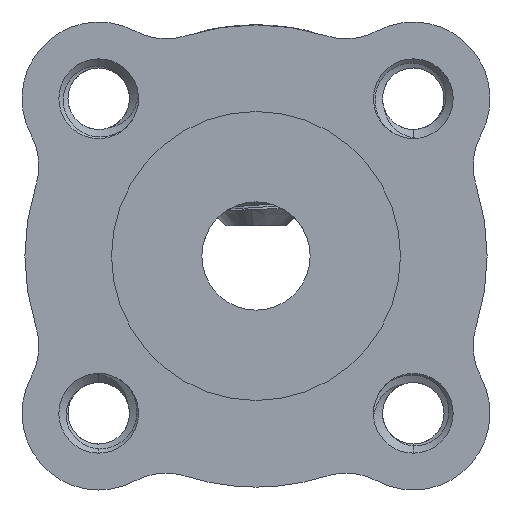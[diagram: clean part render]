
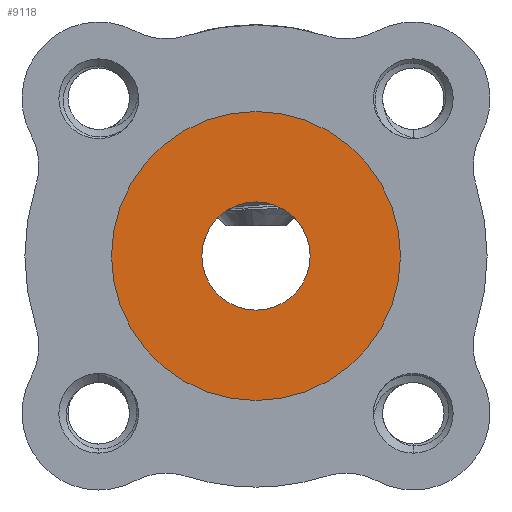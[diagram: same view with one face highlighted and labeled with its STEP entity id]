
A CAD part, front view. The second image highlights one B-rep face of the part: STEP entity #9118.
In plain terms, the highlighted planar face has unit normal (0, -1, 0).
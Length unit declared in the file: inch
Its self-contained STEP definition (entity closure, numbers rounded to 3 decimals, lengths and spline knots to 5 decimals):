
#645 = CIRCLE ( 'NONE', #1527, 0.25 ) ;
#1005 = ORIENTED_EDGE ( 'NONE', *, *, #9234, .F. ) ;
#1527 = AXIS2_PLACEMENT_3D ( 'NONE', #9904, #13593, #19202 ) ;
#1808 = AXIS2_PLACEMENT_3D ( 'NONE', #3510, #9217, #16728 ) ;
#1817 = DIRECTION ( 'NONE',  ( 0., 1., 0. ) ) ;
#2585 = CARTESIAN_POINT ( 'NONE',  ( 0., 0., 0.09375 ) ) ;
#3242 = VERTEX_POINT ( 'NONE', #20995 ) ;
#3460 = DIRECTION ( 'NONE',  ( 0., 0., 1. ) ) ;
#3510 = CARTESIAN_POINT ( 'NONE',  ( 0., 0., 0. ) ) ;
#3542 = CARTESIAN_POINT ( 'NONE',  ( 0., 0., 0. ) ) ;
#3864 = FACE_BOUND ( 'NONE', #5868, .T. ) ;
#4030 = DIRECTION ( 'NONE',  ( 0., 0., 1. ) ) ;
#4692 = VERTEX_POINT ( 'NONE', #2585 ) ;
#5393 = VERTEX_POINT ( 'NONE', #9607 ) ;
#5868 = EDGE_LOOP ( 'NONE', ( #17093, #22767 ) ) ;
#5999 = CARTESIAN_POINT ( 'NONE',  ( 0., 0., 0. ) ) ;
#6945 = DIRECTION ( 'NONE',  ( 0., 1., 0. ) ) ;
#7242 = EDGE_CURVE ( 'NONE', #22589, #5393, #16703, .T. ) ;
#7343 = PLANE ( 'NONE',  #23333 ) ;
#7677 = DIRECTION ( 'NONE',  ( 0., 1., 0. ) ) ;
#9118 = ADVANCED_FACE ( 'NONE', ( #3864, #22912 ), #7343, .F. ) ;
#9217 = DIRECTION ( 'NONE',  ( 0., 1., 0. ) ) ;
#9234 = EDGE_CURVE ( 'NONE', #5393, #22589, #645, .T. ) ;
#9607 = CARTESIAN_POINT ( 'NONE',  ( 0., 0., 0.25 ) ) ;
#9904 = CARTESIAN_POINT ( 'NONE',  ( 0., 0., 0. ) ) ;
#10815 = CARTESIAN_POINT ( 'NONE',  ( 0., 0., -0.25 ) ) ;
#12625 = EDGE_CURVE ( 'NONE', #4692, #3242, #16741, .T. ) ;
#13593 = DIRECTION ( 'NONE',  ( 0., 1., 0. ) ) ;
#14289 = AXIS2_PLACEMENT_3D ( 'NONE', #18162, #6945, #23783 ) ;
#14398 = ORIENTED_EDGE ( 'NONE', *, *, #7242, .F. ) ;
#16379 = CIRCLE ( 'NONE', #19954, 0.09375 ) ;
#16703 = CIRCLE ( 'NONE', #14289, 0.25 ) ;
#16728 = DIRECTION ( 'NONE',  ( 0., 0., 1. ) ) ;
#16741 = CIRCLE ( 'NONE', #1808, 0.09375 ) ;
#17093 = ORIENTED_EDGE ( 'NONE', *, *, #12625, .T. ) ;
#17156 = EDGE_CURVE ( 'NONE', #3242, #4692, #16379, .T. ) ;
#18162 = CARTESIAN_POINT ( 'NONE',  ( 0., 0., 0. ) ) ;
#19078 = EDGE_LOOP ( 'NONE', ( #14398, #1005 ) ) ;
#19202 = DIRECTION ( 'NONE',  ( 0., 0., 1. ) ) ;
#19954 = AXIS2_PLACEMENT_3D ( 'NONE', #5999, #7677, #4030 ) ;
#20995 = CARTESIAN_POINT ( 'NONE',  ( 0., 0., -0.09375 ) ) ;
#22589 = VERTEX_POINT ( 'NONE', #10815 ) ;
#22767 = ORIENTED_EDGE ( 'NONE', *, *, #17156, .T. ) ;
#22912 = FACE_OUTER_BOUND ( 'NONE', #19078, .T. ) ;
#23333 = AXIS2_PLACEMENT_3D ( 'NONE', #3542, #1817, #3460 ) ;
#23783 = DIRECTION ( 'NONE',  ( 0., 0., 1. ) ) ;
